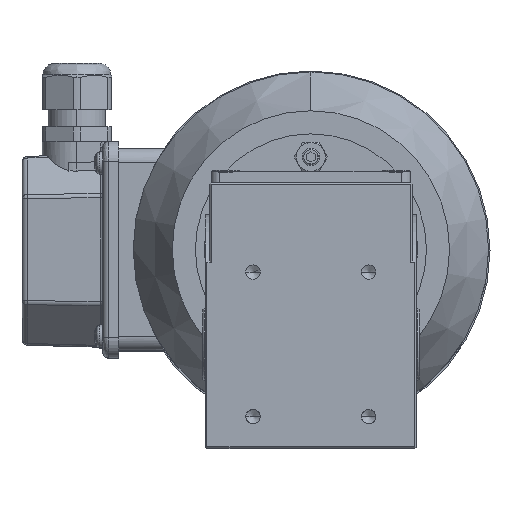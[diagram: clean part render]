
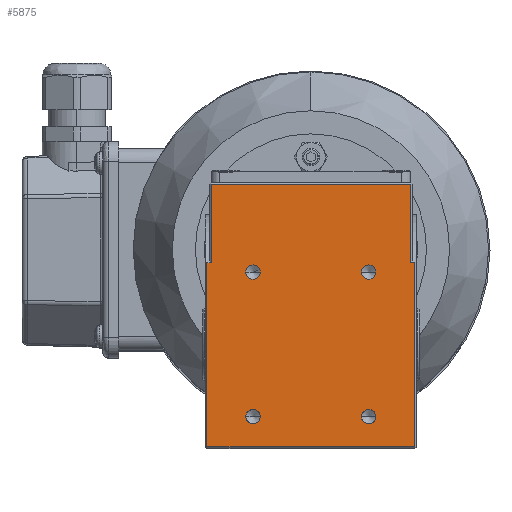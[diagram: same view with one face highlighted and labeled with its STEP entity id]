
A CAD part, top view. The second image highlights one B-rep face of the part: STEP entity #5875.
In plain terms, the highlighted planar face has unit normal (0, 0, 1).
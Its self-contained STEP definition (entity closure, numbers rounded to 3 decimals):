
#209 = ORIENTED_EDGE ( 'NONE', *, *, #11135, .F. ) ;
#405 = EDGE_CURVE ( 'NONE', #6167, #627, #19911, .T. ) ;
#441 = VERTEX_POINT ( 'NONE', #25397 ) ;
#461 = CARTESIAN_POINT ( 'NONE',  ( 17.5, -25., 35. ) ) ;
#627 = VERTEX_POINT ( 'NONE', #18653 ) ;
#1182 = CARTESIAN_POINT ( 'NONE',  ( -42.5, 56., 35. ) ) ;
#1317 = PLANE ( 'NONE',  #24957 ) ;
#1463 = DIRECTION ( 'NONE',  ( 1., 0., 0. ) ) ;
#1617 = CARTESIAN_POINT ( 'NONE',  ( -36., 28.284, 35. ) ) ;
#1863 = DIRECTION ( 'NONE',  ( 1., 0., 0. ) ) ;
#1892 = CARTESIAN_POINT ( 'NONE',  ( 34.5, 56., 35. ) ) ;
#1933 = VERTEX_POINT ( 'NONE', #17334 ) ;
#2491 = VECTOR ( 'NONE', #19123, 1000. ) ;
#2527 = CARTESIAN_POINT ( 'NONE',  ( 36., -35.5, 35. ) ) ;
#2615 = ORIENTED_EDGE ( 'NONE', *, *, #15586, .F. ) ;
#2838 = ORIENTED_EDGE ( 'NONE', *, *, #17825, .F. ) ;
#2929 = AXIS2_PLACEMENT_3D ( 'NONE', #10207, #13841, #3932 ) ;
#3220 = CARTESIAN_POINT ( 'NONE',  ( -42.5, -35.5, 35. ) ) ;
#3489 = DIRECTION ( 'NONE',  ( 0., 1., 0. ) ) ;
#3578 = CARTESIAN_POINT ( 'NONE',  ( 17.5, 25., 35. ) ) ;
#3581 = DIRECTION ( 'NONE',  ( 0., 0., 1. ) ) ;
#3721 = VECTOR ( 'NONE', #15127, 1000. ) ;
#3826 = EDGE_LOOP ( 'NONE', ( #2838, #7401 ) ) ;
#3866 = LINE ( 'NONE', #19761, #9485 ) ;
#3932 = DIRECTION ( 'NONE',  ( 1., 0., 0. ) ) ;
#4100 = DIRECTION ( 'NONE',  ( -1., 0., 0. ) ) ;
#4142 = EDGE_LOOP ( 'NONE', ( #2615, #21168 ) ) ;
#4202 = DIRECTION ( 'NONE',  ( 0., 0., 1. ) ) ;
#5030 = FACE_BOUND ( 'NONE', #8823, .T. ) ;
#5043 = ORIENTED_EDGE ( 'NONE', *, *, #405, .T. ) ;
#5252 = CARTESIAN_POINT ( 'NONE',  ( -22.5, 25., 35. ) ) ;
#5407 = CARTESIAN_POINT ( 'NONE',  ( 20., 25., 35. ) ) ;
#5461 = CIRCLE ( 'NONE', #12529, 2.5 ) ;
#5547 = CARTESIAN_POINT ( 'NONE',  ( -36., 56., 35. ) ) ;
#5680 = LINE ( 'NONE', #5547, #11573 ) ;
#5861 = EDGE_CURVE ( 'NONE', #25254, #10925, #21063, .T. ) ;
#5875 = ADVANCED_FACE ( 'NONE', ( #11202, #6880, #5030, #23019, #20801 ), #1317, .F. ) ;
#5944 = CARTESIAN_POINT ( 'NONE',  ( -42.5, 55.5, 35. ) ) ;
#6143 = VERTEX_POINT ( 'NONE', #25082 ) ;
#6167 = VERTEX_POINT ( 'NONE', #13108 ) ;
#6842 = EDGE_LOOP ( 'NONE', ( #16772, #9773, #16348, #16358, #19568, #11585, #11984, #5043 ) ) ;
#6880 = FACE_BOUND ( 'NONE', #3826, .T. ) ;
#7303 = EDGE_CURVE ( 'NONE', #7913, #25254, #5680, .T. ) ;
#7401 = ORIENTED_EDGE ( 'NONE', *, *, #8356, .F. ) ;
#7430 = AXIS2_PLACEMENT_3D ( 'NONE', #9132, #17034, #1463 ) ;
#7454 = CIRCLE ( 'NONE', #17408, 2.5 ) ;
#7844 = VECTOR ( 'NONE', #14082, 1000. ) ;
#7890 = VECTOR ( 'NONE', #19786, 1000. ) ;
#7913 = VERTEX_POINT ( 'NONE', #1617 ) ;
#7940 = DIRECTION ( 'NONE',  ( 1., 0., 0. ) ) ;
#8213 = VECTOR ( 'NONE', #24931, 1000. ) ;
#8264 = EDGE_CURVE ( 'NONE', #441, #9537, #25288, .T. ) ;
#8356 = EDGE_CURVE ( 'NONE', #24330, #1933, #9514, .T. ) ;
#8823 = EDGE_LOOP ( 'NONE', ( #20764, #209 ) ) ;
#9132 = CARTESIAN_POINT ( 'NONE',  ( -20., -25., 35. ) ) ;
#9239 = VERTEX_POINT ( 'NONE', #25633 ) ;
#9416 = CARTESIAN_POINT ( 'NONE',  ( -20., 25., 35. ) ) ;
#9485 = VECTOR ( 'NONE', #7940, 1000. ) ;
#9514 = CIRCLE ( 'NONE', #11384, 2.5 ) ;
#9537 = VERTEX_POINT ( 'NONE', #16219 ) ;
#9743 = EDGE_CURVE ( 'NONE', #9537, #441, #5461, .T. ) ;
#9773 = ORIENTED_EDGE ( 'NONE', *, *, #7303, .T. ) ;
#9822 = ORIENTED_EDGE ( 'NONE', *, *, #9743, .F. ) ;
#10207 = CARTESIAN_POINT ( 'NONE',  ( 20., -25., 35. ) ) ;
#10550 = CIRCLE ( 'NONE', #21361, 2.5 ) ;
#10925 = VERTEX_POINT ( 'NONE', #2527 ) ;
#11135 = EDGE_CURVE ( 'NONE', #17926, #9239, #21254, .T. ) ;
#11202 = FACE_BOUND ( 'NONE', #4142, .T. ) ;
#11384 = AXIS2_PLACEMENT_3D ( 'NONE', #21816, #17928, #17498 ) ;
#11435 = DIRECTION ( 'NONE',  ( 1., 0., 0. ) ) ;
#11468 = AXIS2_PLACEMENT_3D ( 'NONE', #21426, #3581, #11565 ) ;
#11565 = DIRECTION ( 'NONE',  ( 1., 0., 0. ) ) ;
#11573 = VECTOR ( 'NONE', #17660, 1000. ) ;
#11585 = ORIENTED_EDGE ( 'NONE', *, *, #16912, .T. ) ;
#11744 = VERTEX_POINT ( 'NONE', #17294 ) ;
#11870 = CIRCLE ( 'NONE', #11468, 2.5 ) ;
#11984 = ORIENTED_EDGE ( 'NONE', *, *, #22170, .T. ) ;
#12089 = VERTEX_POINT ( 'NONE', #5252 ) ;
#12529 = AXIS2_PLACEMENT_3D ( 'NONE', #22066, #4202, #21934 ) ;
#13108 = CARTESIAN_POINT ( 'NONE',  ( -34.5, 55.5, 35. ) ) ;
#13251 = CARTESIAN_POINT ( 'NONE',  ( 20., -25., 35. ) ) ;
#13676 = VERTEX_POINT ( 'NONE', #13957 ) ;
#13841 = DIRECTION ( 'NONE',  ( 0., 0., 1. ) ) ;
#13885 = EDGE_CURVE ( 'NONE', #12089, #11744, #10550, .T. ) ;
#13957 = CARTESIAN_POINT ( 'NONE',  ( 34.5, 28.284, 35. ) ) ;
#14082 = DIRECTION ( 'NONE',  ( 0., 1., 0. ) ) ;
#14746 = CARTESIAN_POINT ( 'NONE',  ( 36., 56., 35. ) ) ;
#15050 = DIRECTION ( 'NONE',  ( 1., 0., 0. ) ) ;
#15127 = DIRECTION ( 'NONE',  ( -1., 0., 0. ) ) ;
#15412 = VECTOR ( 'NONE', #4100, 1000. ) ;
#15586 = EDGE_CURVE ( 'NONE', #11744, #12089, #11870, .T. ) ;
#15797 = CIRCLE ( 'NONE', #19135, 2.5 ) ;
#16219 = CARTESIAN_POINT ( 'NONE',  ( -22.5, -25., 35. ) ) ;
#16348 = ORIENTED_EDGE ( 'NONE', *, *, #5861, .T. ) ;
#16358 = ORIENTED_EDGE ( 'NONE', *, *, #24609, .T. ) ;
#16593 = EDGE_CURVE ( 'NONE', #7913, #627, #3866, .T. ) ;
#16772 = ORIENTED_EDGE ( 'NONE', *, *, #16593, .F. ) ;
#16912 = EDGE_CURVE ( 'NONE', #13676, #6143, #21766, .T. ) ;
#16947 = CARTESIAN_POINT ( 'NONE',  ( 36., 28.284, 35. ) ) ;
#16969 = LINE ( 'NONE', #5944, #15412 ) ;
#17034 = DIRECTION ( 'NONE',  ( 0., 0., 1. ) ) ;
#17294 = CARTESIAN_POINT ( 'NONE',  ( -17.5, 25., 35. ) ) ;
#17334 = CARTESIAN_POINT ( 'NONE',  ( 22.5, 25., 35. ) ) ;
#17408 = AXIS2_PLACEMENT_3D ( 'NONE', #5407, #21300, #11435 ) ;
#17498 = DIRECTION ( 'NONE',  ( 1., 0., 0. ) ) ;
#17660 = DIRECTION ( 'NONE',  ( 0., -1., 0. ) ) ;
#17825 = EDGE_CURVE ( 'NONE', #1933, #24330, #7454, .T. ) ;
#17926 = VERTEX_POINT ( 'NONE', #461 ) ;
#17928 = DIRECTION ( 'NONE',  ( 0., 0., 1. ) ) ;
#18653 = CARTESIAN_POINT ( 'NONE',  ( -34.5, 28.284, 35. ) ) ;
#19003 = EDGE_CURVE ( 'NONE', #23548, #13676, #20855, .T. ) ;
#19123 = DIRECTION ( 'NONE',  ( 1., 0., 0. ) ) ;
#19135 = AXIS2_PLACEMENT_3D ( 'NONE', #13251, #25491, #15050 ) ;
#19568 = ORIENTED_EDGE ( 'NONE', *, *, #19003, .T. ) ;
#19761 = CARTESIAN_POINT ( 'NONE',  ( -35., 28.284, 35. ) ) ;
#19786 = DIRECTION ( 'NONE',  ( 0., -1., 0. ) ) ;
#19911 = LINE ( 'NONE', #23712, #7890 ) ;
#20764 = ORIENTED_EDGE ( 'NONE', *, *, #20913, .F. ) ;
#20801 = FACE_OUTER_BOUND ( 'NONE', #6842, .T. ) ;
#20855 = LINE ( 'NONE', #22944, #3721 ) ;
#20913 = EDGE_CURVE ( 'NONE', #9239, #17926, #15797, .T. ) ;
#21063 = LINE ( 'NONE', #3220, #2491 ) ;
#21168 = ORIENTED_EDGE ( 'NONE', *, *, #13885, .F. ) ;
#21254 = CIRCLE ( 'NONE', #2929, 2.5 ) ;
#21300 = DIRECTION ( 'NONE',  ( 0., 0., 1. ) ) ;
#21361 = AXIS2_PLACEMENT_3D ( 'NONE', #9416, #21609, #1863 ) ;
#21426 = CARTESIAN_POINT ( 'NONE',  ( -20., 25., 35. ) ) ;
#21465 = ORIENTED_EDGE ( 'NONE', *, *, #8264, .F. ) ;
#21609 = DIRECTION ( 'NONE',  ( 0., 0., 1. ) ) ;
#21766 = LINE ( 'NONE', #1892, #7844 ) ;
#21816 = CARTESIAN_POINT ( 'NONE',  ( 20., 25., 35. ) ) ;
#21882 = CARTESIAN_POINT ( 'NONE',  ( -36., -35.5, 35. ) ) ;
#21934 = DIRECTION ( 'NONE',  ( 1., 0., 0. ) ) ;
#22066 = CARTESIAN_POINT ( 'NONE',  ( -20., -25., 35. ) ) ;
#22170 = EDGE_CURVE ( 'NONE', #6143, #6167, #16969, .T. ) ;
#22944 = CARTESIAN_POINT ( 'NONE',  ( 35., 28.284, 35. ) ) ;
#23019 = FACE_BOUND ( 'NONE', #23550, .T. ) ;
#23548 = VERTEX_POINT ( 'NONE', #16947 ) ;
#23550 = EDGE_LOOP ( 'NONE', ( #21465, #9822 ) ) ;
#23712 = CARTESIAN_POINT ( 'NONE',  ( -34.5, 56., 35. ) ) ;
#24330 = VERTEX_POINT ( 'NONE', #3578 ) ;
#24410 = LINE ( 'NONE', #14746, #8213 ) ;
#24609 = EDGE_CURVE ( 'NONE', #10925, #23548, #24410, .T. ) ;
#24931 = DIRECTION ( 'NONE',  ( 0., 1., 0. ) ) ;
#24957 = AXIS2_PLACEMENT_3D ( 'NONE', #1182, #25248, #3489 ) ;
#25082 = CARTESIAN_POINT ( 'NONE',  ( 34.5, 55.5, 35. ) ) ;
#25248 = DIRECTION ( 'NONE',  ( 0., 0., -1. ) ) ;
#25254 = VERTEX_POINT ( 'NONE', #21882 ) ;
#25288 = CIRCLE ( 'NONE', #7430, 2.5 ) ;
#25397 = CARTESIAN_POINT ( 'NONE',  ( -17.5, -25., 35. ) ) ;
#25491 = DIRECTION ( 'NONE',  ( 0., 0., 1. ) ) ;
#25633 = CARTESIAN_POINT ( 'NONE',  ( 22.5, -25., 35. ) ) ;
